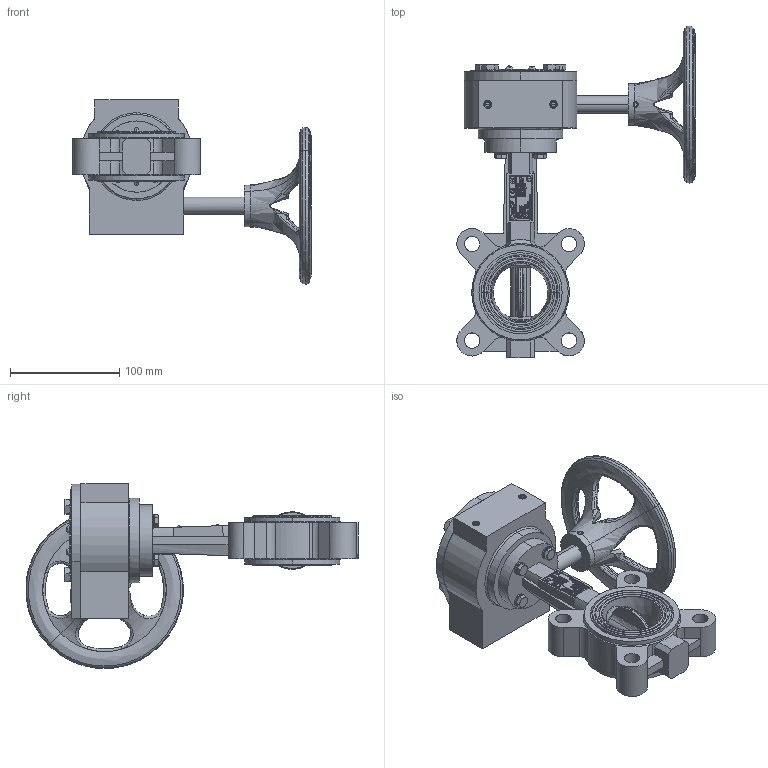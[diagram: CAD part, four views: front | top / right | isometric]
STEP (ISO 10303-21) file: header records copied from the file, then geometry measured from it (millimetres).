
FILE_DESCRIPTION (( 'STEP AP214' ), '1' );
FILE_NAME ('VPG464X-08XX0050.step', '2022-06-30T08:15:18', ( '' ), ( '' ), 'SwSTEP 2.0', 'SolidWorks 2020', '' );
FILE_SCHEMA (( 'AUTOMOTIVE_DESIGN' ));
Length unit declared in the file: millimetre
Products named in the file (1): VPG464X-08XX0050
Bounding box: 217.64 x 303.23 x 168.73 mm (x, y, z)
Surface area: 177607.4 mm2 (no closed solid volume)
Topology: 0 solids, 81 shells, 966 faces, 5971 edges, 4952 vertices
Faces by surface type: plane 529, bspline 191, cylinder 172, cone 70, torus 4
Entity records: 94338 total; most frequent: CARTESIAN_POINT 42835, ORIENTED_EDGE 7923, DIRECTION 6537, EDGE_CURVE 5952, VERTEX_POINT 4952, LINE 3669, VECTOR 3669, B_SPLINE_CURVE_WITH_KNOTS 1544
